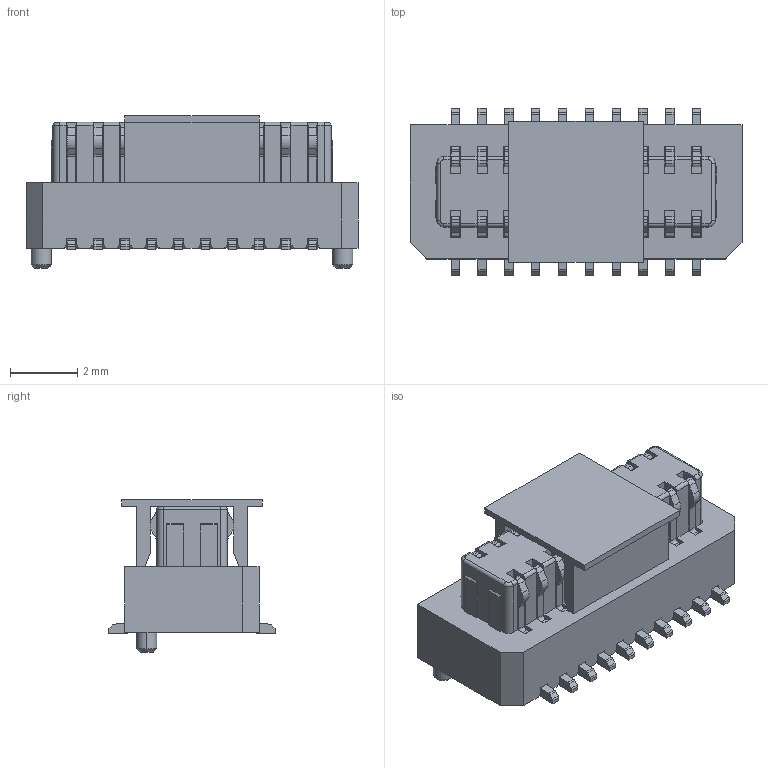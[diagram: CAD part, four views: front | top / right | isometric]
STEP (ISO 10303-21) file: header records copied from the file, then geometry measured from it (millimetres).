
FILE_DESCRIPTION(('CATIA V5 STEP Exchange'),'2;1');
FILE_NAME('F:\黄富鸿\板对板\PBB08B\公座\H3.8\带盖\HC-PBB08B-1-20-M-H3.8-XX-R-P-06 (BTB0.8 单槽 B型公座 立贴 带柱 编带+盖)-HCTL.stp','2026-01-28T07:40:23+00:00',('none'),('none'),'CATIA Version 5 Release 20 GA (IN-10)','CATIA V5 STEP AP203','none');
FILE_SCHEMA(('CONFIG_CONTROL_DESIGN'));
Length unit declared in the file: millimetre
Products named in the file (1): Part1
Bounding box: 9.9 x 5 x 4.55 mm (x, y, z)
Volume: 112.5 mm3; surface area: 534.3 mm2
Topology: 22 solids, 22 shells, 1127 faces, 3308 edges, 2188 vertices
Faces by surface type: plane 767, cylinder 352, cone 4, torus 4
Entity records: 34621 total; most frequent: ORIENTED_EDGE 6616, CARTESIAN_POINT 6219, DIRECTION 4752, EDGE_CURVE 3308, VECTOR 2596, LINE 2596, VERTEX_POINT 2188, AXIS2_PLACEMENT_3D 1435
